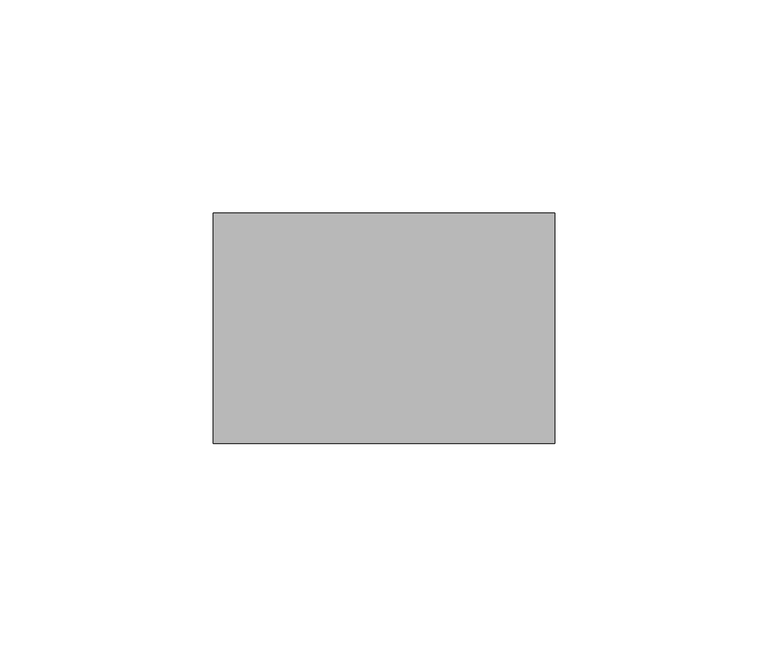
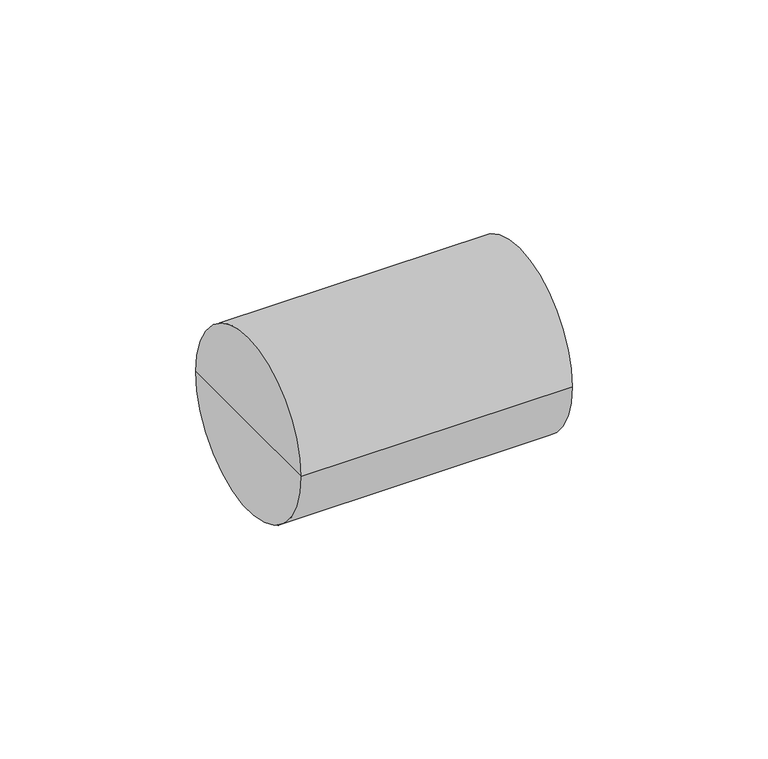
"""IFC4 building model written with IfcOpenShell, lengths in millimetres: cable carrier fitting geometry, Муфта_соединительная_для_двустенной_трубы : Муфта соединительная для двухстенной трубы D50мм."""

from ifc_helpers import new_model, si_unit, frame, origin, place, context, project, spatial, circle_curve, source, transform, mapped, element, save
from ifc_brep_helpers import plane_surface, cylinder_surface, advanced_brep


def cable_carrier_fitting_cf892bee(model_context):
    return source(origin(), model_context, "Body", "AdvancedBrep", [
        advanced_brep(
        [(-40.0, -27.0, 0.0), (-40.0, 27.0, 0.0), (40.0, 27.0, 0.0), (40.0, -27.0, 0.0), (-40.0, 0.0, 0.0), (40.0, 0.0, 0.0)],
        [
            (0, 1, circle_curve(frame((-40.0, 0.0, 0.0), z_axis=(1.0, 0.0, 0.0), x_axis=(0.0, 1.0, 0.0)), 27.0)),
            (1, 2),
            (2, 3, circle_curve(frame((40.0, 0.0, 0.0), z_axis=(-1.0, 0.0, 0.0), x_axis=(0.0, 1.0, 0.0)), 27.0)),
            (3, 0),
            (1, 0, circle_curve(frame((-40.0, 0.0, 0.0), z_axis=(1.0, 0.0, 0.0), x_axis=(0.0, 1.0, 0.0)), 27.0)),
            (3, 2, circle_curve(frame((40.0, 0.0, 0.0), z_axis=(-1.0, 0.0, 0.0), x_axis=(0.0, 1.0, 0.0)), 27.0)),
            (4, 1),
            (0, 4),
            (2, 5),
            (5, 3),
        ],
        [
            cylinder_surface(frame((1965.0, 0.0, 0.0), z_axis=(-1.0, 0.0, 0.0), x_axis=(0.0, 1.0, 0.0)), 27.0),
            plane_surface(frame((-40.0, 0.0, 0.0), z_axis=(-1.0, 0.0, 0.0), x_axis=(0.0, 1.0, 0.0))),
            plane_surface(frame((40.0, 0.0, 0.0), z_axis=(1.0, 0.0, 0.0), x_axis=(0.0, 1.0, 0.0))),
        ],
        [
            (0, [[1, 2, 3, 4]]),
            (0, [[5, -4, 6, -2]]),
            (1, [[7, -1, 8]]),
            (1, [[-8, -5, -7]]),
            (2, [[-3, 9, 10]]),
            (2, [[-6, -10, -9]]),
        ],
    ),
    ])


if __name__ == "__main__":
    model = new_model("IFC4")
    model_context = context("Model", 3, world=origin())
    ifc_project = project(units=[si_unit("LENGTHUNIT", "METRE", prefix="MILLI")], contexts=[model_context])
    site = spatial("IfcSite", under=ifc_project)
    building = spatial("IfcBuilding", under=site)
    placement = place(None, origin())
    cable_carrier_fitting_shape = cable_carrier_fitting_cf892bee(model_context)
    element("IfcCableCarrierFitting", 1, ObjectType="Муфта_соединительная_для_двустенной_трубы : Муфта соединительная для двухстенной трубы D50мм", at=placement, inside=building, context=model_context, shape_type="MappedRepresentation", body=[
        mapped(cable_carrier_fitting_shape, transform((0.0, 0.0, 0.0), x_axis=(1.0, 0.0, 0.0), y_axis=(0.0, 1.0, 0.0), z_axis=(0.0, 0.0, 1.0))),
    ])
    save(model, "model.ifc")
